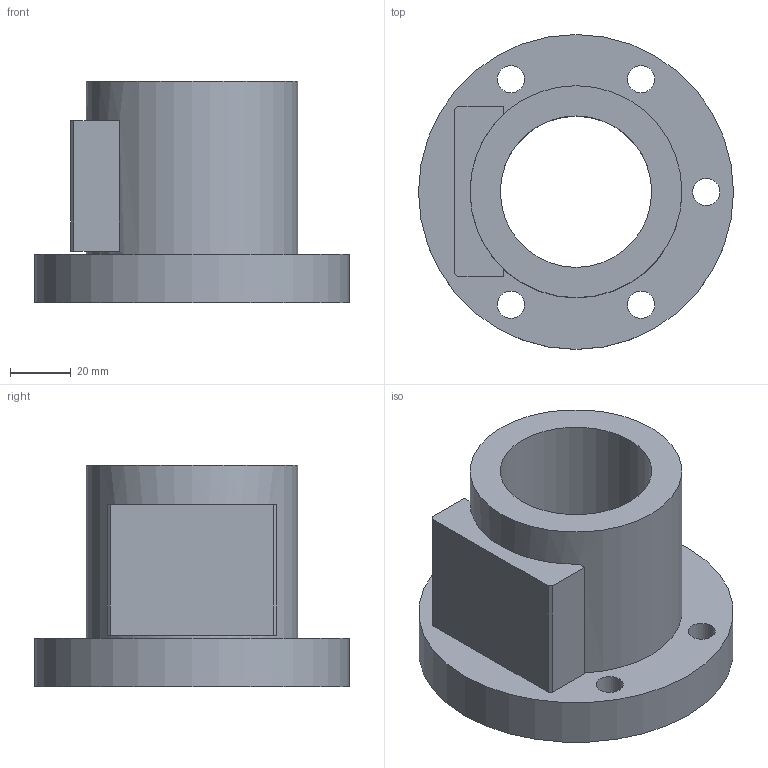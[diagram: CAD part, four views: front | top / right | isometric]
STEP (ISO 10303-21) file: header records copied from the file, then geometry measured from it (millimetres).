
FILE_DESCRIPTION(/* description */ (''),/* implementation_level */ '2;1');
FILE_NAME(/* name */ '50-5A3',/* time_stamp */ '2006-07-31T11:50:14+08:00',/* author */ (''),/* organization */ (''),/* preprocessor_version */ 'ST-DEVELOPER v9',/* originating_system */ 'UGS - NX 4.0',/* authorisation */ '');
FILE_SCHEMA (('CONFIG_CONTROL_DESIGN'));
Length unit declared in the file: millimetre
Products named in the file (1): 50-5A3
Bounding box: 104 x 104 x 73 mm (x, y, z)
Volume: 224850.8 mm3; surface area: 47098 mm2
Topology: 1 solids, 1 shells, 30 faces, 67 edges, 46 vertices
Faces by surface type: plane 17, cylinder 13
Full cylindrical faces by diameter (mm): 9 x5, 14 x5, 50 x1, 70 x1, 104 x1
Entity records: 860 total; most frequent: DIRECTION 140, CARTESIAN_POINT 123, ORIENTED_EDGE 100, EDGE_LOOP 62, AXIS2_PLACEMENT_3D 59, EDGE_CURVE 50, FACE_BOUND 45, VERTEX_POINT 42
